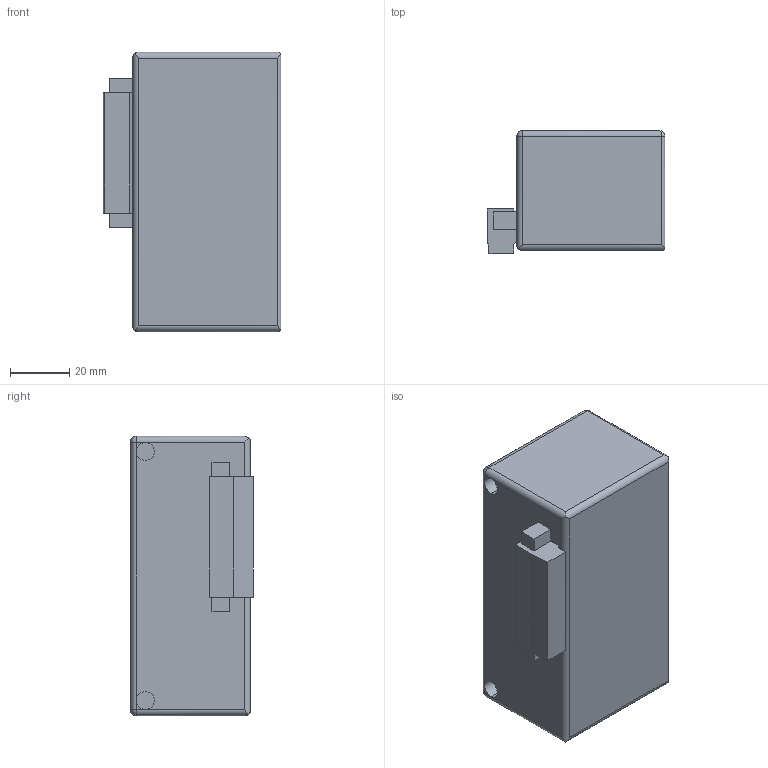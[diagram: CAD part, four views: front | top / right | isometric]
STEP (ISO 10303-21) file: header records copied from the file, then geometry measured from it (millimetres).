
FILE_DESCRIPTION( (''), '2;1');
FILE_NAME ('CVICAD02.288.YS6Bx_11738.stp','2020-08-31T10:48:10',(''),(''),'spGate 12.6.6','','');
FILE_SCHEMA (('AUTOMOTIVE_DESIGN'));
Length unit declared in the file: millimetre
Bounding box: 60 x 41.5 x 94.4 mm (x, y, z)
Volume: 194846.5 mm3; surface area: 23621.4 mm2
Topology: 1 solids, 1 shells, 44 faces, 113 edges, 68 vertices
Faces by surface type: plane 24, cylinder 16, bspline 2, sphere 2
Entity records: 2355 total; most frequent: CARTESIAN_POINT 451, ORIENTED_EDGE 218, DIRECTION 191, COLOUR_RGB 154, PRESENTATION_STYLE_ASSIGNMENT 154, STYLED_ITEM 154, EDGE_CURVE 109, DRAUGHTING_PRE_DEFINED_CURVE_FONT 109
